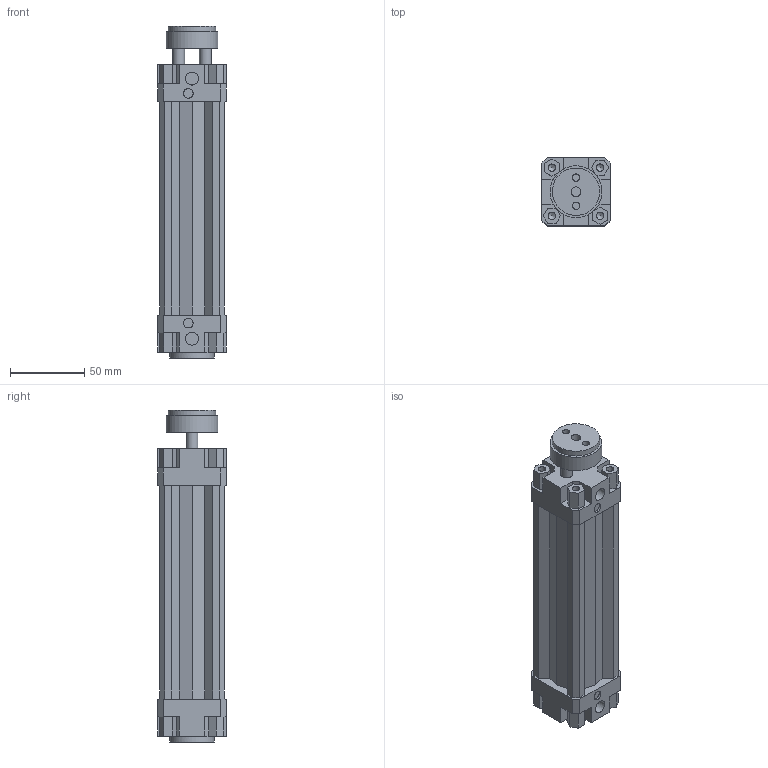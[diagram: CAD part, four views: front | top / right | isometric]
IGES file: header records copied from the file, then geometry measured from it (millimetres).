
Global section: file name: 132#_032_0100_01; native system: Autodesk Inventor 2014; preprocessor: unknown; author: A. Manieri; date: 20161006.154643; units: millimetre
Bounding box: 46 x 46 x 224 mm (x, y, z)
Volume: 245608.2 mm3; surface area: 81905.5 mm2
Topology: 2 solids, 2 shells, 187 faces, 507 edges, 343 vertices
Faces by surface type: bspline 187
